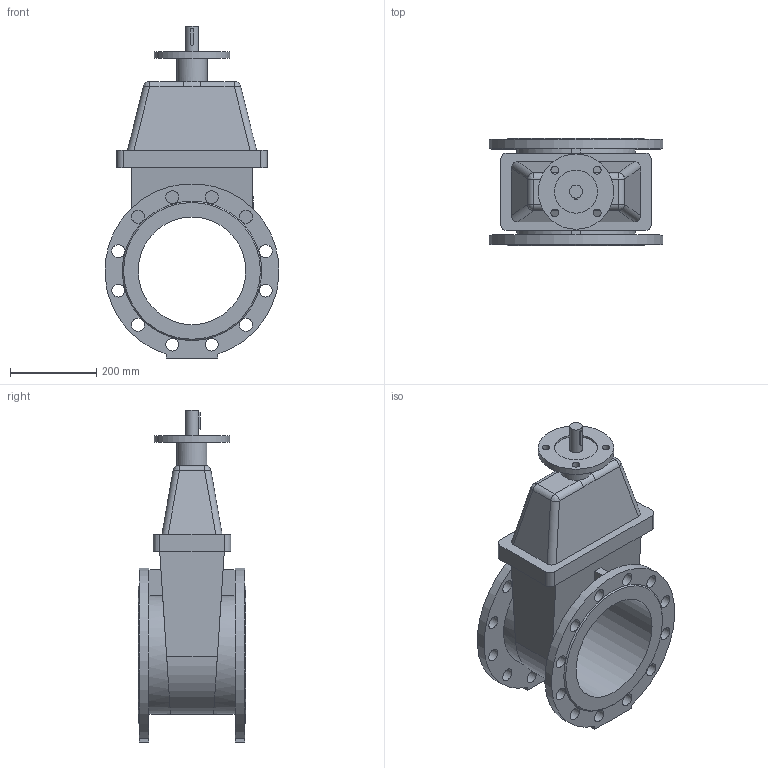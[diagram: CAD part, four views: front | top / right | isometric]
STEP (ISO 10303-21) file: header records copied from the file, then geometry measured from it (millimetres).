
FILE_DESCRIPTION(('STEP AP203'), '1');
FILE_NAME('Çàäâèæêà 47GVA DN250 PN10_PN16 áåç èñïîëíèò. ìåõ.', '', ('UNSPECIFIED'), ('UNSPECIFIED'), 'ASCON STEP Converter 1.6', 'ASCON Math Kernel', '');
FILE_SCHEMA(('CONFIG_CONTROL_DESIGN'));
Length unit declared in the file: millimetre
Bounding box: 404.15 x 250 x 771.5 mm (x, y, z)
Volume: 18646039.9 mm3; surface area: 1118582.3 mm2
Topology: 1 solids, 1 shells, 123 faces, 309 edges, 197 vertices
Faces by surface type: cylinder 62, plane 52, bspline 7, cone 2
Full cylindrical faces by diameter (mm): 18 x4, 30 x25, 70 x1, 100 x1, 175 x1, 250 x1
Entity records: 5568 total; most frequent: CARTESIAN_POINT 1593, DIRECTION 608, ORIENTED_EDGE 540, EDGE_CURVE 270, AXIS2_PLACEMENT_3D 238, EDGE_LOOP 229, VERTEX_POINT 197, FACE_BOUND 160
